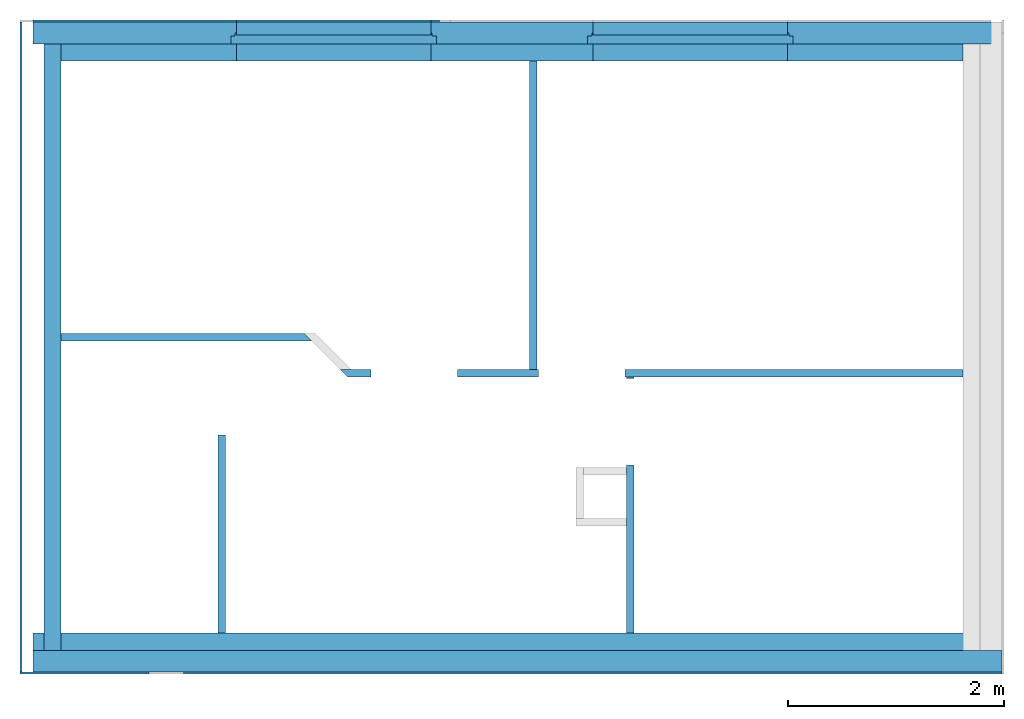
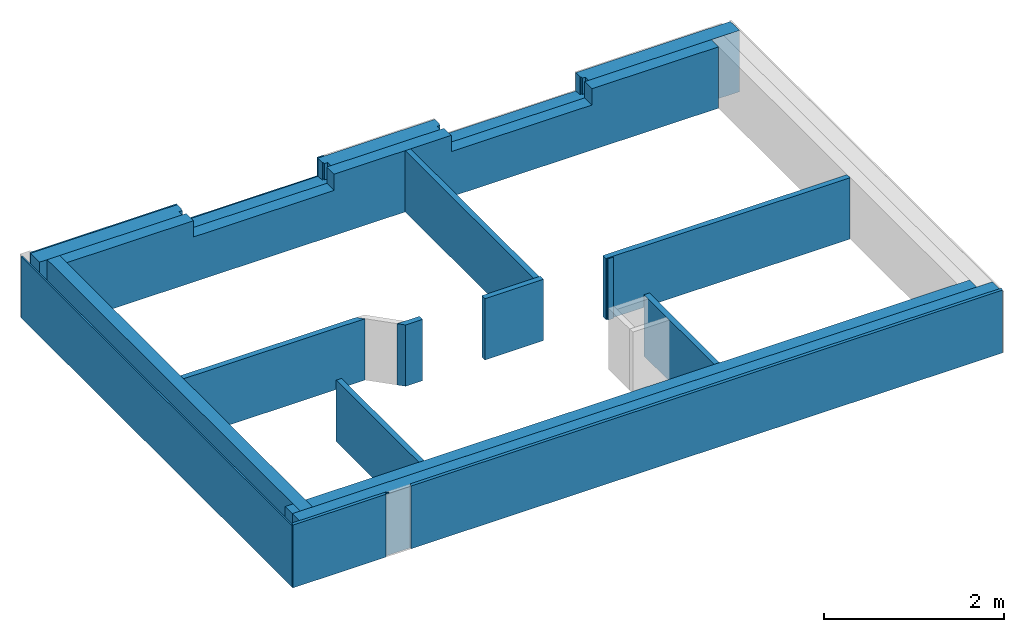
# One storey, part 1 of 2: 14 walls, 9 openings.
"""IFC2X3 building model written with IfcOpenShell, lengths in centimetres."""

from ifc_helpers import new_model, entity, si_unit, converted_unit, derived_unit, direction, frame, frame_2d, origin, place, context, subcontext, project, spatial, polyline, rectangle, outline, extrude, clip, halfspace, bounded_halfspace, faceted_brep, material, layer, layer_set, layer_usage, type_object, element, save


model = new_model("IFC2X3")

# Units and contexts
model_context = context("Model", 3, precision=0.001, world=origin(), true_north=direction((6.12303176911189e-17, 1.0)))
body_context = subcontext(model_context, "Body", "Model", "MODEL_VIEW")
ifc_project = project(units=[si_unit("LENGTHUNIT", "METRE", prefix="CENTI"), si_unit("AREAUNIT", "SQUARE_METRE"), si_unit("VOLUMEUNIT", "CUBIC_METRE"), converted_unit("PLANEANGLEUNIT", "DEGREE", entity("IfcRatioMeasure", 0.0174532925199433), si_unit("PLANEANGLEUNIT", "RADIAN"), dimensions=[0, 0, 0, 0, 0, 0, 0]), si_unit("MASSUNIT", "GRAM", prefix="KILO"), derived_unit("MASSDENSITYUNIT", [(si_unit("MASSUNIT", "GRAM", prefix="KILO"), 1), (si_unit("LENGTHUNIT", "METRE"), -3)]), derived_unit("MOMENTOFINERTIAUNIT", [(si_unit("LENGTHUNIT", "METRE"), 4)]), si_unit("TIMEUNIT", "SECOND"), si_unit("FREQUENCYUNIT", "HERTZ"), si_unit("THERMODYNAMICTEMPERATUREUNIT", "DEGREE_CELSIUS"), derived_unit("THERMALTRANSMITTANCEUNIT", [(si_unit("MASSUNIT", "GRAM", prefix="KILO"), 1), (si_unit("THERMODYNAMICTEMPERATUREUNIT", "KELVIN"), -1), (si_unit("TIMEUNIT", "SECOND"), -3)]), derived_unit("VOLUMETRICFLOWRATEUNIT", [(si_unit("LENGTHUNIT", "METRE"), 3), (si_unit("TIMEUNIT", "SECOND"), -1)]), si_unit("ELECTRICCURRENTUNIT", "AMPERE"), si_unit("ELECTRICVOLTAGEUNIT", "VOLT"), si_unit("POWERUNIT", "WATT"), si_unit("FORCEUNIT", "NEWTON", prefix="KILO"), si_unit("ILLUMINANCEUNIT", "LUX"), si_unit("LUMINOUSFLUXUNIT", "LUMEN"), si_unit("LUMINOUSINTENSITYUNIT", "CANDELA"), derived_unit("USERDEFINED", [(si_unit("MASSUNIT", "GRAM", prefix="KILO"), -1), (si_unit("LENGTHUNIT", "METRE"), -2), (si_unit("TIMEUNIT", "SECOND"), 3), (si_unit("LUMINOUSFLUXUNIT", "LUMEN"), 1)]), derived_unit("LINEARVELOCITYUNIT", [(si_unit("LENGTHUNIT", "METRE"), 1), (si_unit("TIMEUNIT", "SECOND"), -1)]), si_unit("PRESSUREUNIT", "PASCAL"), derived_unit("USERDEFINED", [(si_unit("LENGTHUNIT", "METRE"), -2), (si_unit("MASSUNIT", "GRAM", prefix="KILO"), 1), (si_unit("TIMEUNIT", "SECOND"), -2)]), derived_unit("LINEARFORCEUNIT", [(si_unit("MASSUNIT", "GRAM", prefix="KILO"), 1), (si_unit("LENGTHUNIT", "METRE"), 1), (si_unit("TIMEUNIT", "SECOND"), -2), (si_unit("LENGTHUNIT", "METRE"), -1)]), derived_unit("PLANARFORCEUNIT", [(si_unit("MASSUNIT", "GRAM", prefix="KILO"), 1), (si_unit("LENGTHUNIT", "METRE"), 1), (si_unit("TIMEUNIT", "SECOND"), -2), (si_unit("LENGTHUNIT", "METRE"), -2)])], contexts=[model_context])

# Site, building, storey
site_placement = place(None, origin())
site = spatial("IfcSite", under=ifc_project, at=site_placement, Name="Surface", CompositionType="ELEMENT")
building_placement = place(site_placement, origin())
building = spatial("IfcBuilding", under=site, at=building_placement, CompositionType="ELEMENT")
storey_placement = place(building_placement, frame((0.0, 0.0, 282.0)))
storey = spatial("IfcBuildingStorey", under=building, at=storey_placement, Name="2.82_Arase acrotère", CompositionType="ELEMENT", Elevation=282.0)

# Wall
ifc_material_1 = material(Name="Maçonnerie - Béton")
ifc_layer_1 = layer(ifc_material_1, 20.0)
ifc_layer_set_1 = layer_set([ifc_layer_1], Name="Mur de base:Mur 20")
ifc_layer_usage_1 = layer_usage(ifc_layer_set_1, "AXIS2", "NEGATIVE", 10.0)
wall_type_1 = type_object("IfcWallType", Name="Mur de base:Mur 20", PredefinedType="STANDARD", material=ifc_layer_set_1)
wall_1_placement = place(storey_placement, frame((-882.177260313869, 130.99231712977, 0.0), z_axis=(0.0, 0.0, 1.0), x_axis=(-1.0, 0.0, 0.0)))
element("IfcWallStandardCase", 1, at=wall_1_placement, inside=storey, type_object=wall_type_1, material=ifc_layer_usage_1, Name="Mur de base:Mur 20", ObjectType="Mur de base:Mur 20", context=body_context, shape_type="Clipping", body=[
    clip(extrude(rectangle(XDim=896.000000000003, YDim=20.0, at=frame_2d((448.000000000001, 7.99360577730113e-15), x_axis=(-1.0, 0.0))), origin(), (0.0, 0.0, 1.0), 83.0), halfspace(frame((0.0, 0.0, -25.0)), True)),
])

# Wall, openings
ifc_layer_usage_2 = layer_usage(ifc_layer_set_1, "AXIS2", "POSITIVE", -10.0)
wall_2_placement = place(storey_placement, frame((-882.177260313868, 711.99231712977, 0.0), z_axis=(0.0, 0.0, 1.0), x_axis=(-1.0, 0.0, 0.0)))
wall_2 = element("IfcWallStandardCase", 2, at=wall_2_placement, inside=storey, type_object=wall_type_1, material=ifc_layer_usage_2, Name="Mur de base:Mur 20", ObjectType="Mur de base:Mur 20", context=body_context, shape_type="Clipping", body=[
    clip(extrude(rectangle(XDim=896.000000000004, YDim=20.0, at=frame_2d((448.000000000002, -4.44089209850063e-15), x_axis=(-1.0, 0.0))), origin(), (0.0, 0.0, 1.0), 83.0), halfspace(frame((0.0, 0.0, -25.0)), True)),
])
opening_1_placement = place(wall_2_placement, frame((383.0, 50.0, 54.0345797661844), z_axis=(0.0, 0.0, 1.0), x_axis=(-1.0, 0.0, 0.0)))
element("IfcOpeningElement", 3, at=opening_1_placement, cuts=wall_2, Name="Mur de base:Mur 20", ObjectType="Opening", context=body_context, shape_type="Brep", body=[
    faceted_brep([(5.0, 48.0, 6.96542023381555), (5.0, 50.0, 6.96542023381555), (5.0, 50.0, 86.9654202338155), (5.0, 100.0, 86.9654202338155), (5.0, 100.0, 0.0), (5.0, 48.0, 5.46542023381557), (185.0, 0.0, 6.96542023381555), (185.0, 40.0, 6.96542023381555), (185.0, 40.0, 86.9654202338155), (185.0, 0.0, 86.9654202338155), (5.0, 0.0, 6.96542023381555), (5.0, 40.0, 6.96542023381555), (0.0, 40.0, 6.96542023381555), (0.0, 47.0, 6.96542023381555), (4.0, 47.0, 6.96542023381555), (4.0, 50.0, 6.96542023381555), (185.0, 48.0, 6.96542023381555), (185.0, 50.0, 6.96542023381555), (186.0, 50.0, 6.96542023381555), (186.0, 47.0, 6.96542023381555), (190.0, 47.0, 6.96542023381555), (190.0, 40.0, 6.96542023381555), (5.0, 0.0, 86.9654202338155), (185.0, 50.0, 86.9654202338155), (185.0, 100.0, 86.9654202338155), (185.0, 100.0, 0.0), (185.0, 48.0, 5.46542023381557), (0.0, 40.0, 91.9654202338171), (0.0, 47.0, 91.9654202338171), (190.0, 47.0, 91.9654202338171), (186.0, 47.0, 87.9654202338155), (4.0, 47.0, 87.9654202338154), (4.0, 50.0, 87.9654202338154), (186.0, 50.0, 87.9654202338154), (5.0, 40.0, 86.9654202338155), (190.0, 40.0, 91.9654202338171)], [[[0, 1, 2, 3, 4, 5]], [[6, 7, 8, 9]], [[10, 11, 12, 13, 14, 15, 1, 0, 16, 17, 18, 19, 20, 21, 7, 6]], [[10, 6, 9, 22]], [[3, 2, 23, 24]], [[3, 24, 25, 4]], [[4, 25, 26, 5]], [[5, 26, 16, 0]], [[12, 27, 28, 13]], [[13, 28, 29, 20, 19, 30, 31, 14]], [[14, 31, 32, 15]], [[15, 32, 33, 18, 17, 23, 2, 1]], [[11, 34, 8, 7, 21, 35, 27, 12]], [[27, 35, 29, 28]], [[30, 33, 32, 31]], [[29, 35, 21, 20]], [[19, 18, 33, 30]], [[9, 8, 34, 22]], [[24, 23, 17, 16, 26, 25]], [[22, 34, 11, 10]]]),
])
opening_2_placement = place(wall_2_placement, frame((713.0, 50.0, 54.0345797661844), z_axis=(0.0, 0.0, 1.0), x_axis=(-1.0, 0.0, 0.0)))
element("IfcOpeningElement", 4, at=opening_2_placement, cuts=wall_2, Name="Mur de base:Mur 20", ObjectType="Opening", context=body_context, shape_type="Brep", body=[
    faceted_brep([(5.0, 48.0, 6.96542023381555), (5.0, 50.0, 6.96542023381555), (5.0, 50.0, 86.9654202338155), (5.0, 100.0, 86.9654202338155), (5.0, 100.0, 0.0), (5.0, 48.0, 5.46542023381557), (185.0, 0.0, 6.96542023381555), (185.0, 40.0, 6.96542023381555), (185.0, 40.0, 86.9654202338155), (185.0, 0.0, 86.9654202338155), (5.0, 0.0, 6.96542023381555), (5.0, 40.0, 6.96542023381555), (0.0, 40.0, 6.96542023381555), (0.0, 47.0, 6.96542023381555), (4.0, 47.0, 6.96542023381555), (4.0, 50.0, 6.96542023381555), (185.0, 48.0, 6.96542023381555), (185.0, 50.0, 6.96542023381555), (186.0, 50.0, 6.96542023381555), (186.0, 47.0, 6.96542023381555), (190.0, 47.0, 6.96542023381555), (190.0, 40.0, 6.96542023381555), (5.0, 0.0, 86.9654202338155), (185.0, 50.0, 86.9654202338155), (185.0, 100.0, 86.9654202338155), (185.0, 100.0, 0.0), (185.0, 48.0, 5.46542023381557), (0.0, 40.0, 91.9654202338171), (0.0, 47.0, 91.9654202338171), (190.0, 47.0, 91.9654202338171), (186.0, 47.0, 87.9654202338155), (4.0, 47.0, 87.9654202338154), (4.0, 50.0, 87.9654202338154), (186.0, 50.0, 87.9654202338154), (5.0, 40.0, 86.9654202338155), (190.0, 40.0, 91.9654202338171)], [[[0, 1, 2, 3, 4, 5]], [[6, 7, 8, 9]], [[10, 11, 12, 13, 14, 15, 1, 0, 16, 17, 18, 19, 20, 21, 7, 6]], [[10, 6, 9, 22]], [[3, 2, 23, 24]], [[3, 24, 25, 4]], [[4, 25, 26, 5]], [[5, 26, 16, 0]], [[12, 27, 28, 13]], [[13, 28, 29, 20, 19, 30, 31, 14]], [[14, 31, 32, 15]], [[15, 32, 33, 18, 17, 23, 2, 1]], [[11, 34, 8, 7, 21, 35, 27, 12]], [[27, 35, 29, 28]], [[30, 33, 32, 31]], [[29, 35, 21, 20]], [[19, 18, 33, 30]], [[9, 8, 34, 22]], [[24, 23, 17, 16, 26, 25]], [[22, 34, 11, 10]]]),
])

# Walls
ifc_material_2 = material(Name="Maçonnerie - Enduit")
ifc_layer_2 = layer(ifc_material_2, 2.0)
ifc_layer_set_2 = layer_set([ifc_layer_2], Name="Mur de base:Enduit 2")
ifc_layer_usage_3 = layer_usage(ifc_layer_set_2, "AXIS2", "POSITIVE", -1.0)
wall_type_2 = type_object("IfcWallType", Name="Mur de base:Enduit 2", PredefinedType="STANDARD", material=ifc_layer_set_2)
wall_3_placement = place(storey_placement, frame((-1790.17726031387, 119.992317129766, 0.0)))
element("IfcWallStandardCase", 5, at=wall_3_placement, inside=storey, type_object=wall_type_2, material=ifc_layer_usage_3, Name="Mur de base:Enduit 2", ObjectType="Mur de base:Enduit 2", context=body_context, shape_type="Clipping", body=[
    clip(clip(clip(extrude(outline(polyline([(122.828427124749, -1.0), (120.828427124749, 1.0), (22.0, 1.0), (2.0, 1.0), (0.0, 1.0), (0.0, -1.0), (122.828427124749, -1.0)])), origin(), (0.0, 0.0, 1.0), 86.7319926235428), bounded_halfspace(frame((0.0, 1.0, 86.7319926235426), z_axis=(0.0, -0.642787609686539, 0.766044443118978), x_axis=(1.0, 0.0, 0.0)), False, frame((0.0, 1.0, 86.7319926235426)), polyline([(0.0, 0.0), (0.0, -2.0), (119.112698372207, -2.0), (119.112698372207, 0.0), (2.0, 0.0), (0.0, 0.0)]))), bounded_halfspace(frame((119.112698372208, -1.0, 0.0), z_axis=(-1.0, 0.0, 0.0), x_axis=(0.0, 1.0, 0.0)), True, frame((119.112698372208, -1.0, 0.0), z_axis=(-1.0, 0.0, 0.0), x_axis=(0.0, 1.0, 0.0)), polyline([(0.0, 0.0), (0.0, -85.0537933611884), (2.0, -86.7319926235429), (2.0, 0.0), (0.0, 0.0)]))), halfspace(frame((0.0, 0.0, -290.0)), True)),
])
ifc_layer_usage_4 = layer_usage(ifc_layer_set_2, "AXIS2", "NEGATIVE", 1.0)
wall_4_placement = place(storey_placement, frame((-882.177260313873, 119.992317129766, 0.0), z_axis=(0.0, 0.0, 1.0), x_axis=(-1.0, 0.0, 0.0)))
element("IfcWallStandardCase", 6, at=wall_4_placement, inside=storey, type_object=wall_type_2, material=ifc_layer_usage_4, Name="Mur de base:Enduit 2", ObjectType="Mur de base:Enduit 2", context=body_context, shape_type="Clipping", body=[
    clip(clip(clip(clip(extrude(rectangle(XDim=772.029437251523, YDim=2.00000000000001, at=frame_2d((386.014718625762, -3.33066907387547e-15), x_axis=(-1.0, 0.0))), origin(), (0.0, 0.0, 1.0), 86.7319926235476), bounded_halfspace(frame((0.0, 1.0, 85.053793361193), z_axis=(0.0, 0.642787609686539, 0.766044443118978), x_axis=(-1.0, 0.0, 0.0)), False, frame((0.0, 1.0, 85.053793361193)), polyline([(0.0, 0.0), (0.0, -2.0), (756.887301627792, -2.0), (756.887301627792, 0.0), (0.0, 0.0)]))), bounded_halfspace(frame((756.887301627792, -1.0, 0.0), z_axis=(-1.0, 0.0, 0.0), x_axis=(0.0, -1.0, 0.0)), True, frame((756.887301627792, -1.0, 0.0), z_axis=(-1.0, 0.0, 0.0), x_axis=(0.0, -1.0, 0.0)), polyline([(0.0, 0.0), (0.0, 86.7319926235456), (-2.0, 85.053793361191), (-2.0, 0.0), (0.0, 0.0)]))), bounded_halfspace(frame((756.887301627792, 1.0, 0.0), z_axis=(0.0, 0.0, -1.0), x_axis=(0.0, -1.0, 0.0)), True, frame((756.887301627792, 1.0, 0.0)), polyline([(0.0, 0.0), (0.0, -2.0), (15.1421356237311, -2.0), (15.1421356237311, 0.0), (0.0, 0.0)]))), halfspace(frame((0.0, 0.0, -25.0)), True)),
])

# Wall, openings
ifc_layer_usage_5 = layer_usage(ifc_layer_set_2, "AXIS2", "NEGATIVE", 1.0)
wall_5_placement = place(storey_placement, frame((-1778.17726031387, 722.992317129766, 0.0)))
wall_5 = element("IfcWallStandardCase", 7, at=wall_5_placement, inside=storey, type_object=wall_type_2, material=ifc_layer_usage_5, Name="Mur de base:Enduit 2", ObjectType="Mur de base:Enduit 2", context=body_context, shape_type="Clipping", body=[
    clip(extrude(rectangle(XDim=376.0, YDim=1.99999999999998, at=frame_2d((188.0, 3.3362201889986e-14), x_axis=(-1.0, 0.0))), origin(), (0.0, 0.0, 1.0), 83.0), halfspace(frame((0.0, 0.0, -25.0)), True)),
])
opening_3_placement = place(wall_5_placement, frame((183.0, -61.0, 54.0345797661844)))
element("IfcOpeningElement", 8, at=opening_3_placement, cuts=wall_5, Name="Mur de base:Enduit 2", ObjectType="Opening", context=body_context, shape_type="Brep", body=[
    faceted_brep([(5.0, 48.0, 6.96542023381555), (5.0, 50.0, 6.96542023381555), (5.0, 50.0, 86.9654202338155), (5.0, 100.0, 86.9654202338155), (5.0, 100.0, 0.0), (5.0, 48.0, 5.46542023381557), (185.0, 0.0, 6.96542023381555), (185.0, 40.0, 6.96542023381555), (185.0, 40.0, 86.9654202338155), (185.0, 0.0, 86.9654202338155), (5.0, 0.0, 6.96542023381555), (5.0, 40.0, 6.96542023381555), (0.0, 40.0, 6.96542023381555), (0.0, 47.0, 6.96542023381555), (4.0, 47.0, 6.96542023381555), (4.0, 50.0, 6.96542023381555), (185.0, 48.0, 6.96542023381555), (185.0, 50.0, 6.96542023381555), (186.0, 50.0, 6.96542023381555), (186.0, 47.0, 6.96542023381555), (190.0, 47.0, 6.96542023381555), (190.0, 40.0, 6.96542023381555), (5.0, 0.0, 86.9654202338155), (185.0, 50.0, 86.9654202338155), (185.0, 100.0, 86.9654202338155), (185.0, 100.0, 0.0), (185.0, 48.0, 5.46542023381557), (0.0, 40.0, 91.9654202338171), (0.0, 47.0, 91.9654202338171), (190.0, 47.0, 91.9654202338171), (186.0, 47.0, 87.9654202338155), (4.0, 47.0, 87.9654202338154), (4.0, 50.0, 87.9654202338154), (186.0, 50.0, 87.9654202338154), (5.0, 40.0, 86.9654202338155), (190.0, 40.0, 91.9654202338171)], [[[0, 1, 2, 3, 4, 5]], [[6, 7, 8, 9]], [[10, 11, 12, 13, 14, 15, 1, 0, 16, 17, 18, 19, 20, 21, 7, 6]], [[10, 6, 9, 22]], [[3, 2, 23, 24]], [[3, 24, 25, 4]], [[4, 25, 26, 5]], [[5, 26, 16, 0]], [[12, 27, 28, 13]], [[13, 28, 29, 20, 19, 30, 31, 14]], [[14, 31, 32, 15]], [[15, 32, 33, 18, 17, 23, 2, 1]], [[11, 34, 8, 7, 21, 35, 27, 12]], [[27, 35, 29, 28]], [[30, 33, 32, 31]], [[29, 35, 21, 20]], [[19, 18, 33, 30]], [[9, 8, 34, 22]], [[24, 23, 17, 16, 26, 25]], [[22, 34, 11, 10]]]),
])
opening_4_placement = place(wall_5_placement, frame((513.0, -61.0, 54.0345797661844)))
element("IfcOpeningElement", 9, at=opening_4_placement, cuts=wall_5, Name="Mur de base:Enduit 2", ObjectType="Opening", context=body_context, shape_type="Brep", body=[
    faceted_brep([(5.0, 48.0, 6.96542023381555), (5.0, 50.0, 6.96542023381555), (5.0, 50.0, 86.9654202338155), (5.0, 100.0, 86.9654202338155), (5.0, 100.0, 0.0), (5.0, 48.0, 5.46542023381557), (185.0, 0.0, 6.96542023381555), (185.0, 40.0, 6.96542023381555), (185.0, 40.0, 86.9654202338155), (185.0, 0.0, 86.9654202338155), (5.0, 0.0, 6.96542023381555), (5.0, 40.0, 6.96542023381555), (0.0, 40.0, 6.96542023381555), (0.0, 47.0, 6.96542023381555), (4.0, 47.0, 6.96542023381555), (4.0, 50.0, 6.96542023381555), (185.0, 48.0, 6.96542023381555), (185.0, 50.0, 6.96542023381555), (186.0, 50.0, 6.96542023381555), (186.0, 47.0, 6.96542023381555), (190.0, 47.0, 6.96542023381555), (190.0, 40.0, 6.96542023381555), (5.0, 0.0, 86.9654202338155), (185.0, 50.0, 86.9654202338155), (185.0, 100.0, 86.9654202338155), (185.0, 100.0, 0.0), (185.0, 48.0, 5.46542023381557), (0.0, 40.0, 91.9654202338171), (0.0, 47.0, 91.9654202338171), (190.0, 47.0, 91.9654202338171), (186.0, 47.0, 87.9654202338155), (4.0, 47.0, 87.9654202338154), (4.0, 50.0, 87.9654202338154), (186.0, 50.0, 87.9654202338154), (5.0, 40.0, 86.9654202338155), (190.0, 40.0, 91.9654202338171)], [[[0, 1, 2, 3, 4, 5]], [[6, 7, 8, 9]], [[10, 11, 12, 13, 14, 15, 1, 0, 16, 17, 18, 19, 20, 21, 7, 6]], [[10, 6, 9, 22]], [[3, 2, 23, 24]], [[3, 24, 25, 4]], [[4, 25, 26, 5]], [[5, 26, 16, 0]], [[12, 27, 28, 13]], [[13, 28, 29, 20, 19, 30, 31, 14]], [[14, 31, 32, 15]], [[15, 32, 33, 18, 17, 23, 2, 1]], [[11, 34, 8, 7, 21, 35, 27, 12]], [[27, 35, 29, 28]], [[30, 33, 32, 31]], [[29, 35, 21, 20]], [[19, 18, 33, 30]], [[9, 8, 34, 22]], [[24, 23, 17, 16, 26, 25]], [[22, 34, 11, 10]]]),
])

# Walls
ifc_layer_usage_6 = layer_usage(ifc_layer_set_2, "AXIS2", "POSITIVE", -1.0)
wall_6_placement = place(storey_placement, frame((-1789.17726031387, 721.992317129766, 0.0), z_axis=(0.0, 0.0, 1.0), x_axis=(0.0, -1.0, 0.0)))
element("IfcWallStandardCase", 10, at=wall_6_placement, inside=storey, type_object=wall_type_2, material=ifc_layer_usage_6, Name="Mur de base:Enduit 2", ObjectType="Mur de base:Enduit 2", context=body_context, shape_type="Clipping", body=[
    clip(extrude(rectangle(XDim=601.0, YDim=1.99999999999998, at=frame_2d((300.5, -3.38618022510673e-15), x_axis=(-1.0, 0.0))), origin(), (0.0, 0.0, 1.0), 83.0), halfspace(origin(), True)),
])
ifc_material_3 = material(Name="Isolant rigide")
ifc_layer_3 = layer(ifc_material_3, 16.0)
ifc_layer_set_3 = layer_set([ifc_layer_3], Name="Mur de base:Doublage 16")
ifc_layer_usage_7 = layer_usage(ifc_layer_set_3, "AXIS2", "POSITIVE", -8.0)
wall_type_3 = type_object("IfcWallType", Name="Mur de base:Doublage 16", PredefinedType="STANDARD", material=ifc_layer_set_3)
wall_7_placement = place(storey_placement, frame((-902.177260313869, 148.99231712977, 0.0), z_axis=(0.0, 0.0, 1.0), x_axis=(-1.0, 0.0, 0.0)))
element("IfcWallStandardCase", 11, at=wall_7_placement, inside=storey, type_object=wall_type_3, material=ifc_layer_usage_7, Name="Mur de base:Doublage 16", ObjectType="Mur de base:Doublage 16", context=body_context, shape_type="Clipping", body=[
    clip(extrude(rectangle(XDim=876.000000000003, YDim=16.0, at=frame_2d((438.000000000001, 2.66453525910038e-15), x_axis=(-1.0, 0.0))), origin(), (0.0, 0.0, 1.0), 83.0), halfspace(frame((0.0, 0.0, -19.0)), True)),
])
ifc_layer_usage_8 = layer_usage(ifc_layer_set_3, "AXIS2", "POSITIVE", -8.0)
wall_8_placement = place(storey_placement, frame((-1760.17726031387, 140.992317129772, 0.0), z_axis=(0.0, 0.0, 1.0), x_axis=(0.0, 1.0, 0.0)))
element("IfcWallStandardCase", 12, at=wall_8_placement, inside=storey, type_object=wall_type_3, material=ifc_layer_usage_8, Name="Mur de base:Doublage 16", ObjectType="Mur de base:Doublage 16", context=body_context, shape_type="Clipping", body=[
    clip(extrude(rectangle(XDim=561.0, YDim=15.9999999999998, at=frame_2d((280.5, 0.0), x_axis=(-1.0, 0.0))), origin(), (0.0, 0.0, 1.0), 83.0), halfspace(frame((0.0, 0.0, -19.0)), True)),
])

# Wall, openings
ifc_layer_usage_9 = layer_usage(ifc_layer_set_3, "AXIS2", "POSITIVE", -8.0)
wall_9_placement = place(storey_placement, frame((-1752.17726031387, 693.992317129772, 0.0)))
wall_9 = element("IfcWallStandardCase", 13, at=wall_9_placement, inside=storey, type_object=wall_type_3, material=ifc_layer_usage_9, Name="Mur de base:Doublage 16", ObjectType="Mur de base:Doublage 16", context=body_context, shape_type="Clipping", body=[
    clip(extrude(rectangle(XDim=834.000000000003, YDim=16.0, at=frame_2d((417.000000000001, 0.0), x_axis=(-1.0, 0.0))), origin(), (0.0, 0.0, 1.0), 83.0), halfspace(frame((0.0, 0.0, -19.0)), True)),
])
opening_5_placement = place(wall_9_placement, frame((157.0, -32.0, 54.0345797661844)))
element("IfcOpeningElement", 14, at=opening_5_placement, cuts=wall_9, Name="Mur de base:Doublage 16", ObjectType="Opening", context=body_context, shape_type="Brep", body=[
    faceted_brep([(5.0, 48.0, 6.96542023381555), (5.0, 50.0, 6.96542023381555), (5.0, 50.0, 86.9654202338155), (5.0, 100.0, 86.9654202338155), (5.0, 100.0, 0.0), (5.0, 48.0, 5.46542023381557), (185.0, 0.0, 6.96542023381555), (185.0, 40.0, 6.96542023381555), (185.0, 40.0, 86.9654202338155), (185.0, 0.0, 86.9654202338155), (5.0, 0.0, 6.96542023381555), (5.0, 40.0, 6.96542023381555), (0.0, 40.0, 6.96542023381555), (0.0, 47.0, 6.96542023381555), (4.0, 47.0, 6.96542023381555), (4.0, 50.0, 6.96542023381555), (185.0, 48.0, 6.96542023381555), (185.0, 50.0, 6.96542023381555), (186.0, 50.0, 6.96542023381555), (186.0, 47.0, 6.96542023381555), (190.0, 47.0, 6.96542023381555), (190.0, 40.0, 6.96542023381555), (5.0, 0.0, 86.9654202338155), (185.0, 50.0, 86.9654202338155), (185.0, 100.0, 86.9654202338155), (185.0, 100.0, 0.0), (185.0, 48.0, 5.46542023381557), (0.0, 40.0, 91.9654202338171), (0.0, 47.0, 91.9654202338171), (190.0, 47.0, 91.9654202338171), (186.0, 47.0, 87.9654202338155), (4.0, 47.0, 87.9654202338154), (4.0, 50.0, 87.9654202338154), (186.0, 50.0, 87.9654202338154), (5.0, 40.0, 86.9654202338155), (190.0, 40.0, 91.9654202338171)], [[[0, 1, 2, 3, 4, 5]], [[6, 7, 8, 9]], [[10, 11, 12, 13, 14, 15, 1, 0, 16, 17, 18, 19, 20, 21, 7, 6]], [[10, 6, 9, 22]], [[3, 2, 23, 24]], [[3, 24, 25, 4]], [[4, 25, 26, 5]], [[5, 26, 16, 0]], [[12, 27, 28, 13]], [[13, 28, 29, 20, 19, 30, 31, 14]], [[14, 31, 32, 15]], [[15, 32, 33, 18, 17, 23, 2, 1]], [[11, 34, 8, 7, 21, 35, 27, 12]], [[27, 35, 29, 28]], [[30, 33, 32, 31]], [[29, 35, 21, 20]], [[19, 18, 33, 30]], [[9, 8, 34, 22]], [[24, 23, 17, 16, 26, 25]], [[22, 34, 11, 10]]]),
])
opening_6_placement = place(wall_9_placement, frame((487.0, -32.0, 54.0345797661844)))
element("IfcOpeningElement", 15, at=opening_6_placement, cuts=wall_9, Name="Mur de base:Doublage 16", ObjectType="Opening", context=body_context, shape_type="Brep", body=[
    faceted_brep([(5.0, 48.0, 6.96542023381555), (5.0, 50.0, 6.96542023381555), (5.0, 50.0, 86.9654202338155), (5.0, 100.0, 86.9654202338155), (5.0, 100.0, 0.0), (5.0, 48.0, 5.46542023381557), (185.0, 0.0, 6.96542023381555), (185.0, 40.0, 6.96542023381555), (185.0, 40.0, 86.9654202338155), (185.0, 0.0, 86.9654202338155), (5.0, 0.0, 6.96542023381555), (5.0, 40.0, 6.96542023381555), (0.0, 40.0, 6.96542023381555), (0.0, 47.0, 6.96542023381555), (4.0, 47.0, 6.96542023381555), (4.0, 50.0, 6.96542023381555), (185.0, 48.0, 6.96542023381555), (185.0, 50.0, 6.96542023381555), (186.0, 50.0, 6.96542023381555), (186.0, 47.0, 6.96542023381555), (190.0, 47.0, 6.96542023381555), (190.0, 40.0, 6.96542023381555), (5.0, 0.0, 86.9654202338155), (185.0, 50.0, 86.9654202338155), (185.0, 100.0, 86.9654202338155), (185.0, 100.0, 0.0), (185.0, 48.0, 5.46542023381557), (0.0, 40.0, 91.9654202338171), (0.0, 47.0, 91.9654202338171), (190.0, 47.0, 91.9654202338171), (186.0, 47.0, 87.9654202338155), (4.0, 47.0, 87.9654202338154), (4.0, 50.0, 87.9654202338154), (186.0, 50.0, 87.9654202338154), (5.0, 40.0, 86.9654202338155), (190.0, 40.0, 91.9654202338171)], [[[0, 1, 2, 3, 4, 5]], [[6, 7, 8, 9]], [[10, 11, 12, 13, 14, 15, 1, 0, 16, 17, 18, 19, 20, 21, 7, 6]], [[10, 6, 9, 22]], [[3, 2, 23, 24]], [[3, 24, 25, 4]], [[4, 25, 26, 5]], [[5, 26, 16, 0]], [[12, 27, 28, 13]], [[13, 28, 29, 20, 19, 30, 31, 14]], [[14, 31, 32, 15]], [[15, 32, 33, 18, 17, 23, 2, 1]], [[11, 34, 8, 7, 21, 35, 27, 12]], [[27, 35, 29, 28]], [[30, 33, 32, 31]], [[29, 35, 21, 20]], [[19, 18, 33, 30]], [[9, 8, 34, 22]], [[24, 23, 17, 16, 26, 25]], [[22, 34, 11, 10]]]),
])

ifc_material_4 = material(Name="Mur par défaut")
ifc_layer_4 = layer(ifc_material_4, 7.0)
ifc_layer_set_4 = layer_set([ifc_layer_4], Name="Mur de base:Cloison 7cm")
ifc_layer_usage_10 = layer_usage(ifc_layer_set_4, "AXIS2", "POSITIVE", -3.5)
wall_type_4 = type_object("IfcWallType", Name="Mur de base:Cloison 7cm", PredefinedType="STANDARD", material=ifc_layer_set_4)
wall_10_placement = place(storey_placement, frame((-918.177260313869, 397.49231712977, 0.0), z_axis=(0.0, 0.0, 1.0), x_axis=(-1.0, 0.0, 0.0)))
wall_10 = element("IfcWallStandardCase", 16, at=wall_10_placement, inside=storey, type_object=wall_type_4, material=ifc_layer_usage_10, Name="Mur de base:Cloison 7cm", ObjectType="Mur de base:Cloison 7cm", context=body_context, shape_type="Clipping", body=[
    clip(extrude(outline(polyline([(0.0, -3.49999999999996), (394.0, -3.49999999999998), (401.0, -3.49999999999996), (566.100505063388, -3.49999999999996), (576.0, -3.49999999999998), (569.0, 3.50000000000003), (0.0, 3.50000000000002), (0.0, -3.49999999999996)])), origin(), (0.0, 0.0, 1.0), 83.0), halfspace(frame((0.0, 0.0, -19.0)), True)),
])
opening_7_placement = place(wall_10_placement, frame((-918.177260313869, 397.49231712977, -19.0), z_axis=(0.0, 0.0, 1.0), x_axis=(-1.0, 0.0, 0.0)))
element("IfcOpeningElement", 17, at=opening_7_placement, cuts=wall_10, Name="Mur de base:Cloison 7cm", ObjectType="Opening", context=body_context, shape_type="SweptSolid", body=[
    extrude(rectangle(XDim=207.5, YDim=80.0, at=frame_2d((-2.8421709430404e-14, 0.0), x_axis=(1.0, 0.0))), frame((-1425.67726031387, 553.392317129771, 103.75), z_axis=(0.0, -1.0, 0.0), x_axis=(0.0, 0.0, 1.0)), (0.0, 0.0, 1.0), 304.8),
])
opening_8_placement = place(wall_10_placement, frame((-918.177260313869, 397.49231712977, -19.0), z_axis=(0.0, 0.0, 1.0), x_axis=(-1.0, 0.0, 0.0)))
element("IfcOpeningElement", 18, at=opening_8_placement, cuts=wall_10, Name="Mur de base:Cloison 7cm", ObjectType="Opening", context=body_context, shape_type="SweptSolid", body=[
    extrude(rectangle(XDim=207.5, YDim=80.0, at=frame_2d((0.0, -2.8421709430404e-14), x_axis=(0.0, 1.0))), frame((-1270.67726031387, 553.392317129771, 103.75), z_axis=(0.0, -1.0, 0.0), x_axis=(1.0, 0.0, 0.0)), (0.0, 0.0, 1.0), 304.8),
])

# Walls
ifc_layer_usage_11 = layer_usage(ifc_layer_set_4, "AXIS2", "POSITIVE", -3.5)
wall_11_placement = place(storey_placement, frame((-1520.17726031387, 430.492317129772, 0.0), z_axis=(0.0, 0.0, 1.0), x_axis=(-1.0, 0.0, 0.0)))
element("IfcWallStandardCase", 19, at=wall_11_placement, inside=storey, type_object=wall_type_4, material=ifc_layer_usage_11, Name="Mur de base:Cloison 7cm", ObjectType="Mur de base:Cloison 7cm", context=body_context, shape_type="Clipping", body=[
    clip(extrude(outline(polyline([(232.0, -3.49999999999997), (232.0, 3.50000000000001), (0.0, 3.50000000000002), (7.0, -3.49999999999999), (232.0, -3.49999999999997)])), origin(), (0.0, 0.0, 1.0), 83.0), halfspace(frame((0.0, 0.0, -19.0)), True)),
])
ifc_layer_usage_12 = layer_usage(ifc_layer_set_4, "AXIS2", "POSITIVE", -3.5)
wall_12_placement = place(storey_placement, frame((-1315.67726031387, 685.992317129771, 0.0), z_axis=(0.0, 0.0, 1.0), x_axis=(0.0, -1.0, 0.0)))
element("IfcWallStandardCase", 20, at=wall_12_placement, inside=storey, type_object=wall_type_4, material=ifc_layer_usage_12, Name="Mur de base:Cloison 7cm", ObjectType="Mur de base:Cloison 7cm", context=body_context, shape_type="Clipping", body=[
    clip(extrude(rectangle(XDim=285.0, YDim=7.00000000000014, at=frame_2d((142.5, 0.0), x_axis=(-1.0, 0.0))), origin(), (0.0, 0.0, 1.0), 83.0), halfspace(frame((0.0, 0.0, -19.0)), True)),
])

# Wall, opening
ifc_layer_usage_13 = layer_usage(ifc_layer_set_4, "AXIS2", "POSITIVE", -3.5)
wall_13_placement = place(storey_placement, frame((-1225.67726031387, 393.992317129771, 0.0), z_axis=(0.0, 0.0, 1.0), x_axis=(0.0, -1.0, 0.0)))
wall_13 = element("IfcWallStandardCase", 21, at=wall_13_placement, inside=storey, type_object=wall_type_4, material=ifc_layer_usage_13, Name="Mur de base:Cloison 7cm", ObjectType="Mur de base:Cloison 7cm", context=body_context, shape_type="Clipping", body=[
    clip(extrude(rectangle(XDim=237.0, YDim=7.00000000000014, at=frame_2d((118.5, 0.0), x_axis=(-1.0, 0.0))), origin(), (0.0, 0.0, 1.0), 83.0), halfspace(frame((0.0, 0.0, -19.0)), True)),
])
opening_9_placement = place(wall_13_placement, frame((393.992317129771, 1225.67726031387, -19.0), z_axis=(0.0, 0.0, 1.0), x_axis=(0.0, 1.0, 0.0)))
element("IfcOpeningElement", 22, at=opening_9_placement, cuts=wall_13, Name="Mur de base:Cloison 7cm", ObjectType="Opening", context=body_context, shape_type="SweptSolid", body=[
    extrude(rectangle(XDim=207.5, YDim=79.9999999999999, at=frame_2d((-2.8421709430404e-14, 2.48689957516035e-14), x_axis=(1.0, 0.0))), frame((-1374.57726031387, 352.49231712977, 103.75), z_axis=(1.0, 0.0, 0.0), x_axis=(0.0, 0.0, 1.0)), (0.0, 0.0, 1.0), 304.8),
])

# Wall
ifc_layer_usage_14 = layer_usage(ifc_layer_set_4, "AXIS2", "NEGATIVE", 3.5)
wall_14_placement = place(storey_placement, frame((-1603.67726031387, 156.992317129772, 0.0), z_axis=(0.0, 0.0, 1.0), x_axis=(0.0, 1.0, 0.0)))
element("IfcWallStandardCase", 23, at=wall_14_placement, inside=storey, type_object=wall_type_4, material=ifc_layer_usage_14, Name="Mur de base:Cloison 7cm", ObjectType="Mur de base:Cloison 7cm", context=body_context, shape_type="Clipping", body=[
    clip(extrude(rectangle(XDim=182.999999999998, YDim=7.00000000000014, at=frame_2d((91.4999999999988, 0.0), x_axis=(-1.0, 0.0))), origin(), (0.0, 0.0, 1.0), 83.0), halfspace(frame((0.0, 0.0, -19.0)), True)),
])

save(model, "model.ifc")
